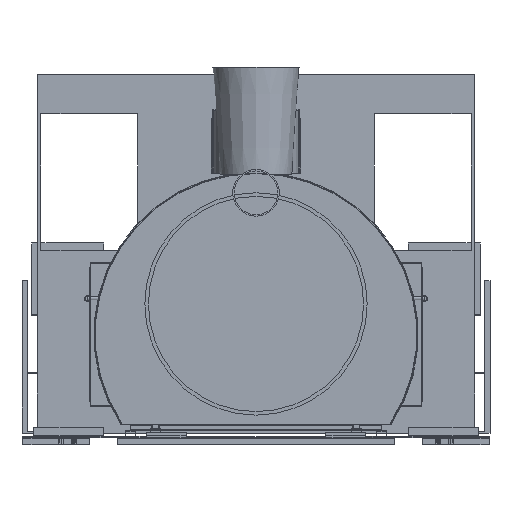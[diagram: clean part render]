
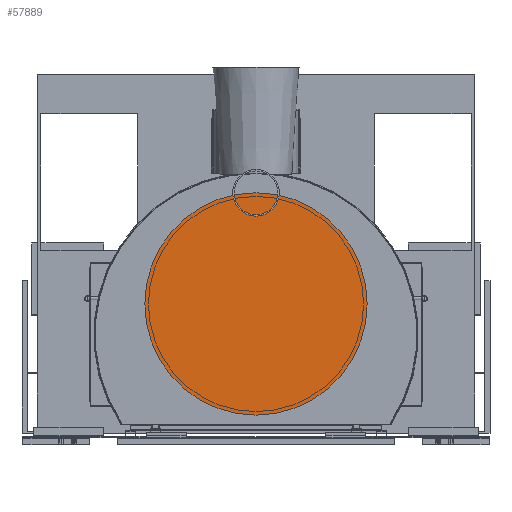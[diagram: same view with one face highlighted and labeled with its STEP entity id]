
A CAD part, left-side view. The second image highlights one B-rep face of the part: STEP entity #57889.
In plain terms, the highlighted planar face has unit normal (-1, 0, 0).
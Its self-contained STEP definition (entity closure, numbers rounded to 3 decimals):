
#57811 = CYLINDRICAL_SURFACE('',#57812,620.);
#57812 = AXIS2_PLACEMENT_3D('',#57813,#57814,#57815);
#57813 = CARTESIAN_POINT('',(783.,0.,2520.));
#57814 = DIRECTION('',(1.,0.,0.));
#57815 = DIRECTION('',(-0.,0.,1.));
#57836 = VERTEX_POINT('',#57837);
#57837 = CARTESIAN_POINT('',(783.,0.,3140.));
#57858 = EDGE_CURVE('',#57836,#57836,#57859,.T.);
#57859 = SURFACE_CURVE('',#57860,(#57865,#57872),.PCURVE_S1.);
#57860 = CIRCLE('',#57861,620.);
#57861 = AXIS2_PLACEMENT_3D('',#57862,#57863,#57864);
#57862 = CARTESIAN_POINT('',(783.,0.,2520.));
#57863 = DIRECTION('',(1.,0.,0.));
#57864 = DIRECTION('',(-0.,0.,1.));
#57865 = PCURVE('',#57811,#57866);
#57866 = DEFINITIONAL_REPRESENTATION('',(#57867),#57871);
#57867 = LINE('',#57868,#57869);
#57868 = CARTESIAN_POINT('',(0.,0.));
#57869 = VECTOR('',#57870,1.);
#57870 = DIRECTION('',(1.,0.));
#57871 = ( GEOMETRIC_REPRESENTATION_CONTEXT(2) 
PARAMETRIC_REPRESENTATION_CONTEXT() REPRESENTATION_CONTEXT('2D SPACE',''
  ) );
#57872 = PCURVE('',#57873,#57878);
#57873 = PLANE('',#57874);
#57874 = AXIS2_PLACEMENT_3D('',#57875,#57876,#57877);
#57875 = CARTESIAN_POINT('',(783.,0.,2520.));
#57876 = DIRECTION('',(1.,0.,0.));
#57877 = DIRECTION('',(-0.,0.,1.));
#57878 = DEFINITIONAL_REPRESENTATION('',(#57879),#57883);
#57879 = CIRCLE('',#57880,620.);
#57880 = AXIS2_PLACEMENT_2D('',#57881,#57882);
#57881 = CARTESIAN_POINT('',(0.,0.));
#57882 = DIRECTION('',(1.,0.));
#57883 = ( GEOMETRIC_REPRESENTATION_CONTEXT(2) 
PARAMETRIC_REPRESENTATION_CONTEXT() REPRESENTATION_CONTEXT('2D SPACE',''
  ) );
#57889 = ADVANCED_FACE('',(#57890),#57873,.F.);
#57890 = FACE_BOUND('',#57891,.T.);
#57891 = EDGE_LOOP('',(#57892));
#57892 = ORIENTED_EDGE('',*,*,#57858,.F.);
